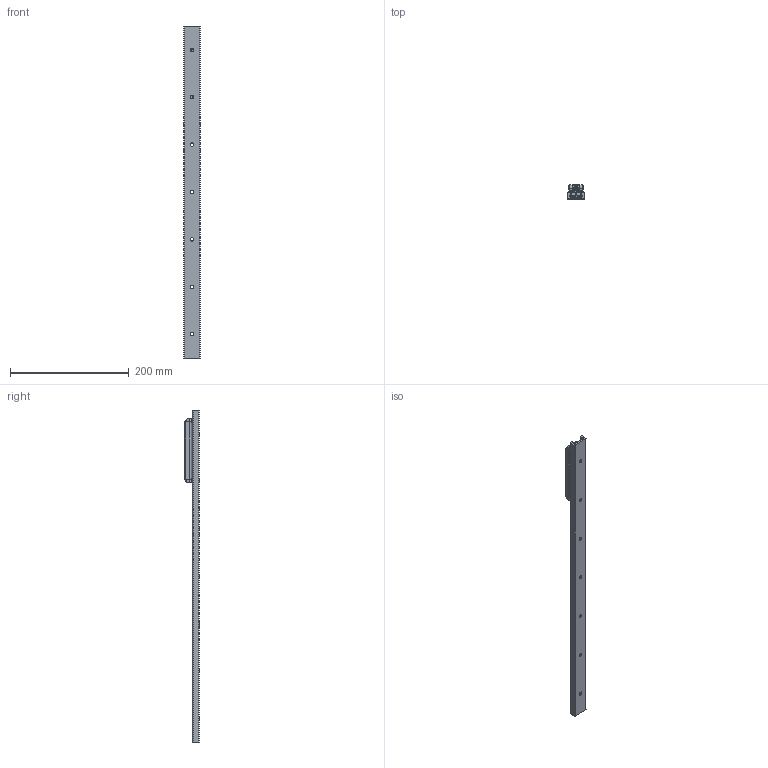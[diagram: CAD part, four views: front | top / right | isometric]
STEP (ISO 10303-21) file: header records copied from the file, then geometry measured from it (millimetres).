
FILE_DESCRIPTION( ( 'STEP AP214' ), '1' );
FILE_NAME( 'p:/temp/worker_17/temp/exporttempdir_3324_11_gtlw9/format_0/TGV-00560_1_RV28G-3.stp', '2020-11-20T15:15:30', ( 'License CC BY-ND 4.0' ), ( 'CADENAS' ), ' ', 'PARTsolutions', ' ' );
FILE_SCHEMA( ( 'AUTOMOTIVE_DESIGN { 1 0 10303 214 1 1 1 1 }' ) );
Length unit declared in the file: millimetre
Products named in the file (6): TGV-00560/1/RV28G-3; _TGV28-0560-(3-1); _RV28G-3-slider; _RGNV28R; _RGAV28R; _WR28G-01
Assembly tree (7 placements, depth 2):
  TGV-00560/1/RV28G-3
    _TGV28-0560-(3-1)
    _RV28G-3-slider
    _RGNV28R  x2
    _RGAV28R
    _WR28G-01  x2
Bounding box: 28 x 24 x 560 mm (x, y, z)
Volume: 117349.8 mm3; surface area: 73092.7 mm2
Topology: 7 solids, 7 shells, 1026 faces, 2680 edges, 1750 vertices
Faces by surface type: plane 657, cylinder 287, cone 47, bspline 26, torus 9
Full cylindrical faces by diameter (mm): 1.27 x4, 2 x2, 2.5 x6, 4 x4, 4.134 x4, 4.2 x3, 5 x3, 5.5 x3, 5.75 x7, 7 x5, 7.5 x1, 8 x6, 10.8 x3, 17 x3, 20.75 x6
Entity records: 24541 total; most frequent: CARTESIAN_POINT 3931, DIRECTION 3270, ORIENTED_EDGE 3036, EDGE_CURVE 1518, AXIS2_PLACEMENT_3D 1240, VERTEX_POINT 1050, EDGE_LOOP 833, LINE 790
